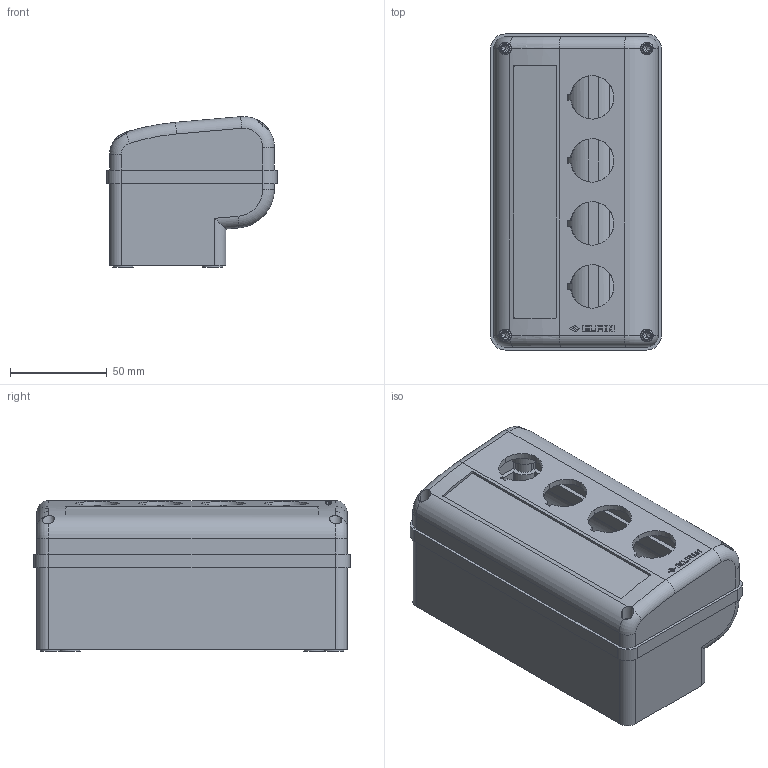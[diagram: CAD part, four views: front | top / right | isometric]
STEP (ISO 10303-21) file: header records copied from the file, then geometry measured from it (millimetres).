
FILE_DESCRIPTION (( 'STEP AP214' ), '1' );
FILE_NAME ('080E160-P4.STEP', '2026-02-09T14:43:55', ( '' ), ( '' ), 'SwSTEP 2.0', 'SolidWorks 2025', '' );
FILE_SCHEMA (( 'AUTOMOTIVE_DESIGN' ));
Length unit declared in the file: millimetre
Products named in the file (5): 225332 - WEB; 10209 Vite TC ø3,5x24 Torx T15; 080E160-P4; 224075A; 225328-P4 - WEB
Assembly tree (7 placements, depth 2):
  080E160-P4
    225332 - WEB
    224075A
    225328-P4 - WEB
    10209 Vite TC ø3,5x24 Torx T15  x4
Bounding box: 88 x 163 x 77.68 mm (x, y, z)
Volume: 180189.6 mm3; surface area: 127860.3 mm2
Topology: 7 solids, 7 shells, 718 faces, 1928 edges, 1251 vertices
Faces by surface type: cylinder 332, plane 279, bspline 44, cone 32, torus 29, sphere 2
Entity records: 18643 total; most frequent: CARTESIAN_POINT 5620, ORIENTED_EDGE 2828, DIRECTION 2529, EDGE_CURVE 1414, VERTEX_POINT 927, AXIS2_PLACEMENT_3D 887, VECTOR 755, LINE 755
